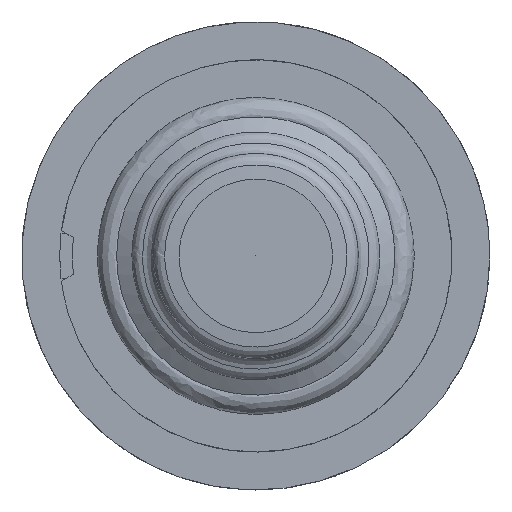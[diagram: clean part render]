
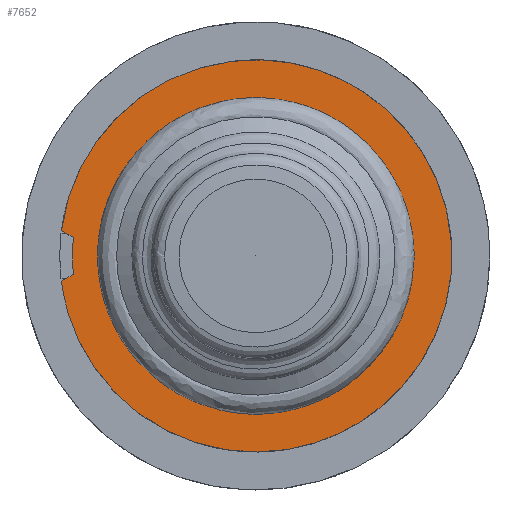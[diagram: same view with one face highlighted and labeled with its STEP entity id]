
A CAD part, front view. The second image highlights one B-rep face of the part: STEP entity #7652.
In plain terms, the highlighted free-form (B-spline) face has degree [1, 1] with [2, 2] control points.
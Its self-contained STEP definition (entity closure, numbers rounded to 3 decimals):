
#7565=CARTESIAN_POINT('V3',(11.2,-5.0,0.)
   );
#7566=VERTEX_POINT('V3',#7565);
#7567=CARTESIAN_POINT('E3',(11.2,-5.0,0.)
   );
#7568=CARTESIAN_POINT('E3',(11.2,-5.0,
   19.399));
#7569=CARTESIAN_POINT('E3',(-5.6,-5.0,
   9.699));
#7570=CARTESIAN_POINT('E3',(-22.4,-5.0,0.)
   );
#7571=CARTESIAN_POINT('E3',(-5.6,-5.0,
   -9.699));
#7572=CARTESIAN_POINT('E3',(11.2,-5.0,
   -19.399));
#7573=CARTESIAN_POINT('E3',(11.2,-5.0,0.)
   );
#7581=(BOUNDED_CURVE()B_SPLINE_CURVE(2,(#7567,#7568,#7569,#7570,
   #7571,#7572,#7573),.CIRCULAR_ARC.,.T.,.U.)
   B_SPLINE_CURVE_WITH_KNOTS((3,2,2,3),(0.0,0.333,
   0.667,1.0),.UNSPECIFIED.)CURVE()
   GEOMETRIC_REPRESENTATION_ITEM()RATIONAL_B_SPLINE_CURVE((1.0,
   0.5,1.0,0.5,1.0,0.5,1.0)
   )REPRESENTATION_ITEM('E3'));
#7582=EDGE_CURVE('E3',#7566,#7566,#7581,.T.);
#7594=CARTESIAN_POINT('F4',(17.05,-5.0,
   -17.05));
#7595=CARTESIAN_POINT('F4',(17.05,-5.0,
   17.05));
#7596=CARTESIAN_POINT('F4',(-17.05,-5.0,
   -17.05));
#7597=CARTESIAN_POINT('F4',(-17.05,-5.0,
   17.05));
#7598=QUASI_UNIFORM_SURFACE('F4',1,1,((#7594,#7596),(#7595,#7597)),
   .PLANE_SURF.,.F.,.F.,.U.);
#7599=CARTESIAN_POINT('V6',(-14.427,-5.0,
   -1.455));
#7600=VERTEX_POINT('V6',#7599);
#7601=CARTESIAN_POINT('V7',(-15.37,-5.0,-2.0));
#7602=VERTEX_POINT('V7',#7601);
#7603=CARTESIAN_POINT('E8',(-14.427,-5.0,
   -1.455));
#7604=CARTESIAN_POINT('E8',(-15.37,-5.0,-2.0));
#7605=QUASI_UNIFORM_CURVE('E8',1,(#7603,#7604),.POLYLINE_FORM.,.F.,
   .U.);
#7606=EDGE_CURVE('E8',#7600,#7602,#7605,.T.);
#7607=ORIENTED_EDGE('E8',*,*,#7606,.T.);
#7608=CARTESIAN_POINT('V8',(-15.37,-5.0,2.0));
#7609=VERTEX_POINT('V8',#7608);
#7610=CARTESIAN_POINT('E9',(-15.37,-5.0,2.0));
#7611=CARTESIAN_POINT('E9',(-12.372,-5.0,
   25.041));
#7612=CARTESIAN_POINT('E9',(7.75,-5.0,
   13.423));
#7613=CARTESIAN_POINT('E9',(31.0,-5.0,0.));
#7614=CARTESIAN_POINT('E9',(7.75,-5.0,
   -13.423));
#7615=CARTESIAN_POINT('E9',(-12.372,-5.0,
   -25.041));
#7616=CARTESIAN_POINT('E9',(-15.37,-5.0,-2.0));
#7624=(BOUNDED_CURVE()B_SPLINE_CURVE(2,(#7610,#7611,#7612,#7613,
   #7614,#7615,#7616),.CIRCULAR_ARC.,.F.,.U.)
   B_SPLINE_CURVE_WITH_KNOTS((3,2,2,3),(1.291,
   17.898,35.796,52.403),
   .UNSPECIFIED.)CURVE()GEOMETRIC_REPRESENTATION_ITEM()
   RATIONAL_B_SPLINE_CURVE((0.933,0.536,
   1.0,0.5,1.0,0.536,0.933))
   REPRESENTATION_ITEM('E9'));
#7625=EDGE_CURVE('E9',#7609,#7602,#7624,.T.);
#7626=ORIENTED_EDGE('E9',*,*,#7625,.F.);
#7627=CARTESIAN_POINT('V9',(-14.427,-5.0,
   1.455));
#7628=VERTEX_POINT('V9',#7627);
#7629=CARTESIAN_POINT('E10',(-15.37,-5.0,2.0));
#7630=CARTESIAN_POINT('E10',(-14.427,-5.0,
   1.455));
#7631=QUASI_UNIFORM_CURVE('E10',1,(#7629,#7630),.POLYLINE_FORM.,.F.,
   .U.);
#7632=EDGE_CURVE('E10',#7609,#7628,#7631,.T.);
#7633=ORIENTED_EDGE('E10',*,*,#7632,.T.);
#7634=CARTESIAN_POINT('E11',(-14.427,-5.0,
   1.455));
#7635=CARTESIAN_POINT('E11',(-14.574,-5.0,0.)
   );
#7636=CARTESIAN_POINT('E11',(-14.427,-5.0,
   -1.455));
#7644=(BOUNDED_CURVE()B_SPLINE_CURVE(2,(#7634,#7635,#7636),
   .CIRCULAR_ARC.,.F.,.U.)CURVE()GEOMETRIC_REPRESENTATION_ITEM()
   QUASI_UNIFORM_CURVE()RATIONAL_B_SPLINE_CURVE((1.0,
   0.995,1.0))REPRESENTATION_ITEM('E11'));
#7645=EDGE_CURVE('E11',#7628,#7600,#7644,.T.);
#7646=ORIENTED_EDGE('E11',*,*,#7645,.T.);
#7647=EDGE_LOOP('F4',(#7607,#7626,#7633,#7646));
#7648=FACE_OUTER_BOUND('F4',#7647,.T.);
#7649=ORIENTED_EDGE('E3',*,*,#7582,.F.);
#7650=EDGE_LOOP('F4',(#7649));
#7651=FACE_BOUND('F4',#7650,.T.);
#7652=ADVANCED_FACE('F4',(#7648,#7651),#7598,.T.);
